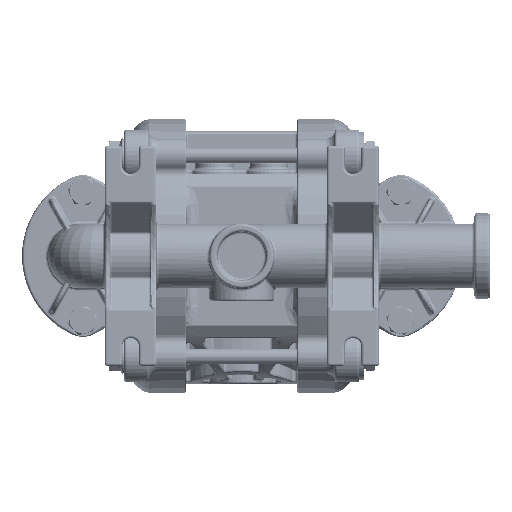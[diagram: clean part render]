
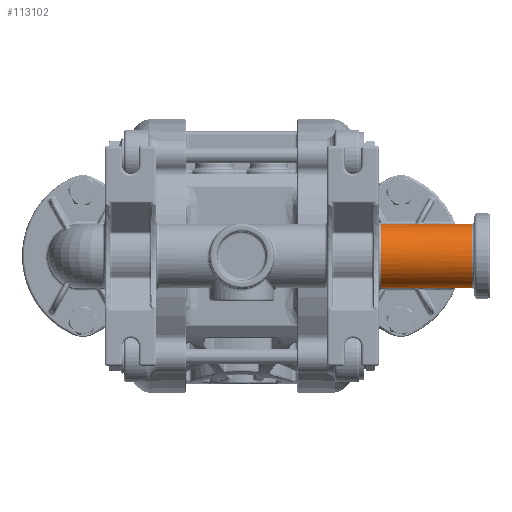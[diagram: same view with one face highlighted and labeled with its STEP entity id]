
A CAD part, left-side view. The second image highlights one B-rep face of the part: STEP entity #113102.
In plain terms, the highlighted cylindrical face has radius 12.5 mm (diameter 25 mm), a partial arc.
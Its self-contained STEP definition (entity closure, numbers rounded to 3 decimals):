
#700 = AXIS2_PLACEMENT_3D ( 'NONE', #142828, #173978, #89311 ) ;
#1869 = VERTEX_POINT ( 'NONE', #78139 ) ;
#7559 = CARTESIAN_POINT ( 'NONE',  ( -68.581, -53.56, -12.487 ) ) ;
#8074 = CARTESIAN_POINT ( 'NONE',  ( -69.301, -53.891, 12.434 ) ) ;
#8332 = LINE ( 'NONE', #33873, #33119 ) ;
#8342 = LINE ( 'NONE', #188525, #103912 ) ;
#8618 = ORIENTED_EDGE ( 'NONE', *, *, #21652, .F. ) ;
#8702 = VECTOR ( 'NONE', #188387, 1000. ) ;
#9170 = VECTOR ( 'NONE', #9867, 1000. ) ;
#9867 = DIRECTION ( 'NONE',  ( 0., 1., 0. ) ) ;
#10023 = CARTESIAN_POINT ( 'NONE',  ( -68., -89., 12.5 ) ) ;
#12364 = DIRECTION ( 'NONE',  ( 0., 1., 0. ) ) ;
#12372 = LINE ( 'NONE', #59583, #8702 ) ;
#16152 = LINE ( 'NONE', #163063, #113802 ) ;
#18850 = CARTESIAN_POINT ( 'NONE',  ( -68., -54., 0. ) ) ;
#19900 = CARTESIAN_POINT ( 'NONE',  ( -70.075, -54., 12.326 ) ) ;
#20306 = VERTEX_POINT ( 'NONE', #89412 ) ;
#20695 = ORIENTED_EDGE ( 'NONE', *, *, #96668, .T. ) ;
#21652 = EDGE_CURVE ( 'NONE', #59469, #165844, #112102, .T. ) ;
#21708 = CIRCLE ( 'NONE', #141104, 12.5 ) ;
#22936 = CARTESIAN_POINT ( 'NONE',  ( -68., -54.294, 12.5 ) ) ;
#23278 = EDGE_CURVE ( 'NONE', #205997, #165703, #8332, .T. ) ;
#24676 = CARTESIAN_POINT ( 'NONE',  ( -68.753, -53.661, -12.479 ) ) ;
#25721 = CARTESIAN_POINT ( 'NONE',  ( -69.298, -53.89, -12.434 ) ) ;
#30154 = EDGE_CURVE ( 'NONE', #165703, #99282, #12372, .T. ) ;
#30374 = CARTESIAN_POINT ( 'NONE',  ( -68., -81.897, 12.5 ) ) ;
#32805 = DIRECTION ( 'NONE',  ( 0., 1., 0. ) ) ;
#33119 = VECTOR ( 'NONE', #32805, 1000. ) ;
#33873 = CARTESIAN_POINT ( 'NONE',  ( -68., -84., 12.5 ) ) ;
#35956 = CARTESIAN_POINT ( 'NONE',  ( -69.111, -53.826, 12.452 ) ) ;
#37025 = CARTESIAN_POINT ( 'NONE',  ( -68.268, -53.321, 12.498 ) ) ;
#45334 = B_SPLINE_CURVE_WITH_KNOTS ( 'NONE', 3,
 ( #184002, #154979, #37025, #70270, #152868, #35956, #8074, #133559, #101405, #19900 ),
 .UNSPECIFIED., .F., .F.,
 ( 4, 2, 2, 2, 4 ),
 ( 0.001, 0.002, 0.002, 0.003, 0.004 ),
 .UNSPECIFIED. ) ;
#47920 = VERTEX_POINT ( 'NONE', #144344 ) ;
#51215 = EDGE_LOOP ( 'NONE', ( #176564, #94246, #148949, #20695, #96211, #64703, #211691, #79082, #8618, #151124, #205560, #84479 ) ) ;
#59367 = CARTESIAN_POINT ( 'NONE',  ( -68., -68.706, -12.5 ) ) ;
#59469 = VERTEX_POINT ( 'NONE', #126857 ) ;
#59484 = AXIS2_PLACEMENT_3D ( 'NONE', #137294, #145702, #160752 ) ;
#59583 = CARTESIAN_POINT ( 'NONE',  ( -68., -84., 12.5 ) ) ;
#59902 = LINE ( 'NONE', #210087, #63961 ) ;
#63760 = CARTESIAN_POINT ( 'NONE',  ( -68., -84., -12.5 ) ) ;
#63961 = VECTOR ( 'NONE', #193958, 1000. ) ;
#64091 = VERTEX_POINT ( 'NONE', #80410 ) ;
#64703 = ORIENTED_EDGE ( 'NONE', *, *, #112930, .T. ) ;
#65457 = CARTESIAN_POINT ( 'NONE',  ( -68., -84., 12.5 ) ) ;
#66860 = VERTEX_POINT ( 'NONE', #59367 ) ;
#67090 = DIRECTION ( 'NONE',  ( 0., -1., 0. ) ) ;
#70270 = CARTESIAN_POINT ( 'NONE',  ( -68.584, -53.561, 12.487 ) ) ;
#71869 = CYLINDRICAL_SURFACE ( 'NONE', #59484, 12.5 ) ;
#73973 = CARTESIAN_POINT ( 'NONE',  ( -68.123, -53.182, -12.5 ) ) ;
#75020 = FACE_OUTER_BOUND ( 'NONE', #51215, .T. ) ;
#75309 = EDGE_CURVE ( 'NONE', #174051, #211483, #96641, .T. ) ;
#77131 = VECTOR ( 'NONE', #180258, 1000. ) ;
#78139 = CARTESIAN_POINT ( 'NONE',  ( -70.075, -54., 12.326 ) ) ;
#79082 = ORIENTED_EDGE ( 'NONE', *, *, #172693, .T. ) ;
#80410 = CARTESIAN_POINT ( 'NONE',  ( -70.075, -54., -12.326 ) ) ;
#81557 = DIRECTION ( 'NONE',  ( 0., 1., 0. ) ) ;
#81756 = CARTESIAN_POINT ( 'NONE',  ( -68., -68.706, 12.5 ) ) ;
#84479 = ORIENTED_EDGE ( 'NONE', *, *, #171532, .F. ) ;
#89311 = DIRECTION ( 'NONE',  ( 0., 0., 1. ) ) ;
#89412 = CARTESIAN_POINT ( 'NONE',  ( -68., -81.897, -12.5 ) ) ;
#89799 = CIRCLE ( 'NONE', #700, 12.5 ) ;
#90090 = CARTESIAN_POINT ( 'NONE',  ( -69.684, -53.977, -12.388 ) ) ;
#91135 = CARTESIAN_POINT ( 'NONE',  ( -68., -53.025, -12.5 ) ) ;
#94246 = ORIENTED_EDGE ( 'NONE', *, *, #23278, .T. ) ;
#96211 = ORIENTED_EDGE ( 'NONE', *, *, #75309, .T. ) ;
#96641 = LINE ( 'NONE', #65457, #77131 ) ;
#96668 = EDGE_CURVE ( 'NONE', #99282, #174051, #8342, .T. ) ;
#96809 = EDGE_CURVE ( 'NONE', #1869, #64091, #21708, .T. ) ;
#99282 = VERTEX_POINT ( 'NONE', #81756 ) ;
#101405 = CARTESIAN_POINT ( 'NONE',  ( -69.878, -54., 12.36 ) ) ;
#103912 = VECTOR ( 'NONE', #203571, 1000. ) ;
#112102 = LINE ( 'NONE', #63760, #164981 ) ;
#112930 = EDGE_CURVE ( 'NONE', #211483, #1869, #45334, .T. ) ;
#113102 = ADVANCED_FACE ( 'NONE', ( #75020 ), #71869, .T. ) ;
#113802 = VECTOR ( 'NONE', #81557, 1000. ) ;
#118243 = CARTESIAN_POINT ( 'NONE',  ( -68., -53.025, -12.5 ) ) ;
#120187 = CARTESIAN_POINT ( 'NONE',  ( -69.878, -54., -12.36 ) ) ;
#126857 = CARTESIAN_POINT ( 'NONE',  ( -68., -54.294, -12.5 ) ) ;
#130364 = EDGE_CURVE ( 'NONE', #66860, #59469, #59902, .T. ) ;
#133559 = CARTESIAN_POINT ( 'NONE',  ( -69.684, -53.977, 12.388 ) ) ;
#135160 = CARTESIAN_POINT ( 'NONE',  ( -68.265, -53.319, -12.498 ) ) ;
#137294 = CARTESIAN_POINT ( 'NONE',  ( -68., -84., 0. ) ) ;
#141104 = AXIS2_PLACEMENT_3D ( 'NONE', #18850, #67090, #152902 ) ;
#142828 = CARTESIAN_POINT ( 'NONE',  ( -68., -89., 0. ) ) ;
#144344 = CARTESIAN_POINT ( 'NONE',  ( -68., -89., -12.5 ) ) ;
#144902 = CARTESIAN_POINT ( 'NONE',  ( -68., -84., -12.5 ) ) ;
#145702 = DIRECTION ( 'NONE',  ( 0., 1., 0. ) ) ;
#148949 = ORIENTED_EDGE ( 'NONE', *, *, #30154, .T. ) ;
#151124 = ORIENTED_EDGE ( 'NONE', *, *, #130364, .F. ) ;
#152689 = B_SPLINE_CURVE_WITH_KNOTS ( 'NONE', 3,
 ( #154453, #120187, #90090, #25721, #153416, #24676, #7559, #135160, #73973, #91135 ),
 .UNSPECIFIED., .F., .F.,
 ( 4, 2, 2, 2, 4 ),
 ( 0., 0.001, 0.001, 0.002, 0.002 ),
 .UNSPECIFIED. ) ;
#152868 = CARTESIAN_POINT ( 'NONE',  ( -68.753, -53.661, 12.479 ) ) ;
#152902 = DIRECTION ( 'NONE',  ( 0., 0., -1. ) ) ;
#153416 = CARTESIAN_POINT ( 'NONE',  ( -69.11, -53.826, -12.452 ) ) ;
#154453 = CARTESIAN_POINT ( 'NONE',  ( -70.075, -54., -12.326 ) ) ;
#154979 = CARTESIAN_POINT ( 'NONE',  ( -68.122, -53.181, 12.5 ) ) ;
#160752 = DIRECTION ( 'NONE',  ( 0., 0., -1. ) ) ;
#163063 = CARTESIAN_POINT ( 'NONE',  ( -68., -84., -12.5 ) ) ;
#164981 = VECTOR ( 'NONE', #12364, 1000. ) ;
#165703 = VERTEX_POINT ( 'NONE', #30374 ) ;
#165844 = VERTEX_POINT ( 'NONE', #118243 ) ;
#171166 = CARTESIAN_POINT ( 'NONE',  ( -68., -53.025, 12.5 ) ) ;
#171532 = EDGE_CURVE ( 'NONE', #47920, #20306, #178156, .T. ) ;
#172693 = EDGE_CURVE ( 'NONE', #64091, #165844, #152689, .T. ) ;
#173978 = DIRECTION ( 'NONE',  ( 0., 1., 0. ) ) ;
#174051 = VERTEX_POINT ( 'NONE', #22936 ) ;
#176564 = ORIENTED_EDGE ( 'NONE', *, *, #179084, .T. ) ;
#178156 = LINE ( 'NONE', #144902, #9170 ) ;
#179084 = EDGE_CURVE ( 'NONE', #47920, #205997, #89799, .T. ) ;
#180258 = DIRECTION ( 'NONE',  ( 0., 1., 0. ) ) ;
#184002 = CARTESIAN_POINT ( 'NONE',  ( -68., -53.025, 12.5 ) ) ;
#188387 = DIRECTION ( 'NONE',  ( 0., 1., 0. ) ) ;
#188525 = CARTESIAN_POINT ( 'NONE',  ( -68., -84., 12.5 ) ) ;
#193958 = DIRECTION ( 'NONE',  ( 0., 1., 0. ) ) ;
#203571 = DIRECTION ( 'NONE',  ( 0., 1., 0. ) ) ;
#203817 = EDGE_CURVE ( 'NONE', #20306, #66860, #16152, .T. ) ;
#205560 = ORIENTED_EDGE ( 'NONE', *, *, #203817, .F. ) ;
#205997 = VERTEX_POINT ( 'NONE', #10023 ) ;
#210087 = CARTESIAN_POINT ( 'NONE',  ( -68., -84., -12.5 ) ) ;
#211483 = VERTEX_POINT ( 'NONE', #171166 ) ;
#211691 = ORIENTED_EDGE ( 'NONE', *, *, #96809, .T. ) ;
